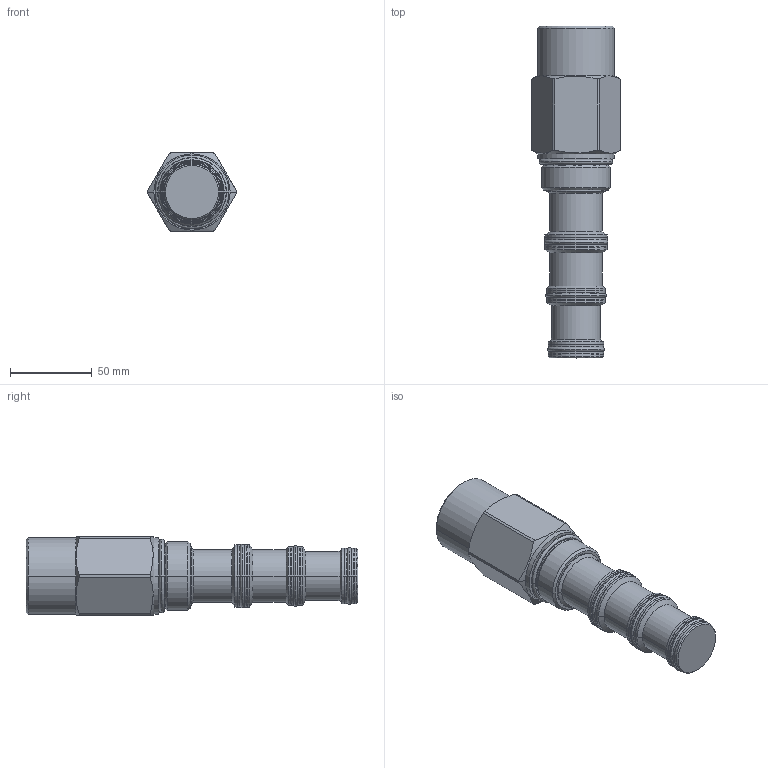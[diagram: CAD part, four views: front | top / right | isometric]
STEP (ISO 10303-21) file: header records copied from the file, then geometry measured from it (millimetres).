
FILE_DESCRIPTION((''),'2;1');
FILE_NAME('PRT0002','2009-01-30T',('jcs'),(''),'PRO/ENGINEER BY PARAMETRIC TECHNOLOGY CORPORATION, 2008010','PRO/ENGINEER BY PARAMETRIC TECHNOLOGY CORPORATION, 2008010','');
FILE_SCHEMA(('CONFIG_CONTROL_DESIGN'));
Length unit declared in the file: inch
Products named in the file (1): PRT0002
Bounding box: 54.23 x 202.56 x 47.75 mm (x, y, z)
Volume: 263560.3 mm3; surface area: 38178 mm2
Topology: 7 solids, 7 shells, 164 faces, 380 edges, 230 vertices
Faces by surface type: cylinder 56, torus 48, plane 36, cone 24
Entity records: 4852 total; most frequent: DIRECTION 934, CARTESIAN_POINT 912, ORIENTED_EDGE 760, AXIS2_PLACEMENT_3D 418, EDGE_CURVE 380, CIRCLE 254, VERTEX_POINT 230, EDGE_LOOP 176
